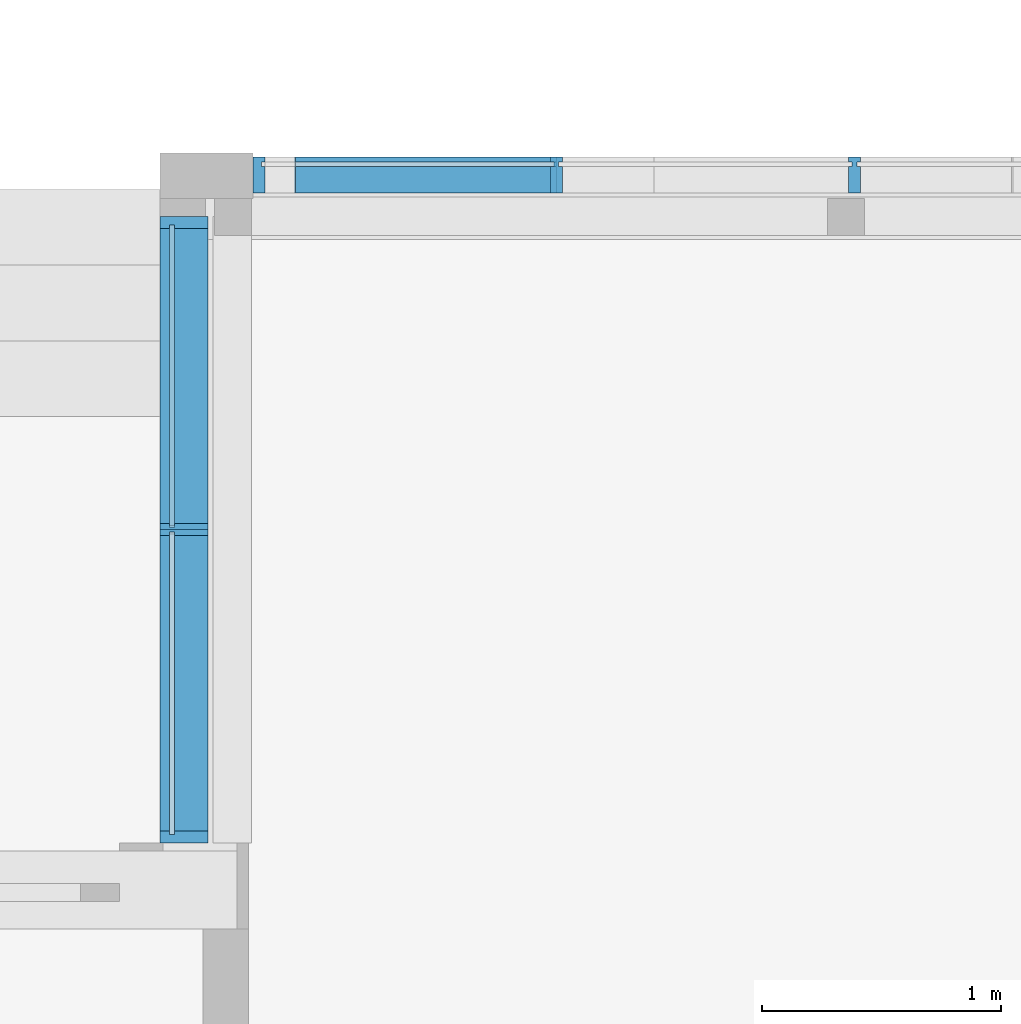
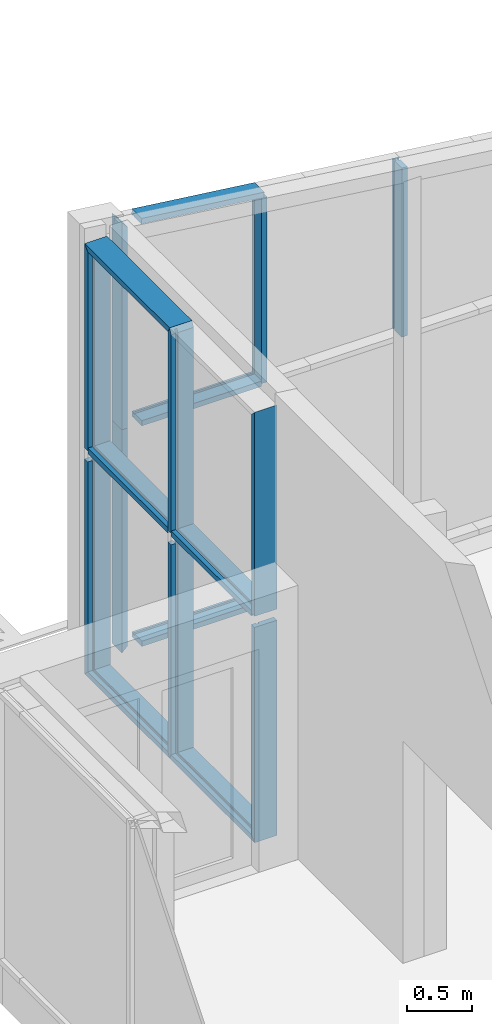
# One storey, part 44 of 301: 18 members, 2 elements without a shape of their own.
"""IFC2X3 building model written with IfcOpenShell, lengths in millimetres."""

import ifcopenshell
import ifcopenshell.guid

model = None  # the IFC model being written
_history = None  # IfcOwnerHistory: only IFC2X3 demands one
_inside = {}  # id of a spatial element -> (the spatial element, [elements in it])
_under = {}  # id of a project, library or spatial element -> (it, [spatial elements below it])
_declared = {}  # id of a project -> (the project, [libraries it declares])
_typed = {}  # id of a type object -> (the type object, [elements of that type])
_made_of = {}  # id of a material, layer set ... -> (it, [elements and type objects made of it])


def new_model(schema):
    """Start an empty IFC model of exactly this schema.

    Asked for "IFC4X3", IfcOpenShell would pick the latest addendum, in which some entities
    have other attributes; the version numbers below select the first issue.
    IFC2X3 requires an IfcOwnerHistory on every rooted entity: one is made here for all.
    """
    global model, _history
    if schema == "IFC4X3":
        model = ifcopenshell.file(schema_version=(4, 3, 0, 0))
    else:
        model = ifcopenshell.file(schema=schema)
    _inside.clear()
    _under.clear()
    _declared.clear()
    _typed.clear()
    _made_of.clear()
    _history = None
    if model.schema == "IFC2X3":
        org = make("IfcOrganization", Name="unknown")
        user = make(
            "IfcPersonAndOrganization",
            ThePerson=make("IfcPerson", FamilyName="unknown"),
            TheOrganization=org,
        )
        app = make(
            "IfcApplication",
            ApplicationDeveloper=org,
            Version="unknown",
            ApplicationFullName="unknown",
            ApplicationIdentifier="unknown",
        )
        _history = make(
            "IfcOwnerHistory",
            OwningUser=user,
            OwningApplication=app,
            ChangeAction="ADDED",
            CreationDate=0,
        )
    return model


def make(cls, **values):
    """One entity of the class cls with the attributes given. An attribute that is None is left unset."""
    return model.create_entity(
        cls, **{name: value for name, value in values.items() if value is not None}
    )


def entity(cls, *values):
    """Any entity or typed value of the class cls, its attributes in the order of the schema. None: left unset."""
    e = model.create_entity(cls)
    for i, value in enumerate(values):
        if value is not None:
            e[i] = value
    return e


def rooted(cls, **values):
    """An entity with a GlobalId (a new one), such as an element, a storey or a relation."""
    return make(cls, GlobalId=ifcopenshell.guid.new(), OwnerHistory=_history, **values)


def si_unit(unit_type, name, prefix=None):
    """IfcSIUnit, for example si_unit("LENGTHUNIT", "METRE", prefix="MILLI")."""
    return make("IfcSIUnit", UnitType=unit_type, Prefix=prefix, Name=name)


def converted_unit(unit_type, name, factor, base, dimensions=None, offset=None):
    """IfcConversionBasedUnit, such as the inch: factor (a typed value) times the base unit."""
    return make(
        "IfcConversionBasedUnit"
        if offset is None
        else "IfcConversionBasedUnitWithOffset",
        ConversionOffset=offset,
        Dimensions=None
        if dimensions is None
        else entity("IfcDimensionalExponents", *dimensions),
        UnitType=unit_type,
        Name=name,
        ConversionFactor=make(
            "IfcMeasureWithUnit", ValueComponent=factor, UnitComponent=base
        ),
    )


def derived_unit(unit_type, elements):
    """IfcDerivedUnit: a product of units, each with its exponent."""
    return make(
        "IfcDerivedUnit",
        Elements=[
            make("IfcDerivedUnitElement", Unit=unit, Exponent=power)
            for unit, power in elements
        ],
        UnitType=unit_type,
    )


def money_unit(currency):
    """IfcMonetaryUnit."""
    return make("IfcMonetaryUnit", Currency=currency)


def assignment(units):
    """IfcUnitAssignment: the units of a project."""
    return None if units is None else make("IfcUnitAssignment", Units=units)


def point(xyz):
    """IfcCartesianPoint."""
    return None if xyz is None else make("IfcCartesianPoint", Coordinates=xyz)


def direction(xyz):
    """IfcDirection."""
    return None if xyz is None else make("IfcDirection", DirectionRatios=xyz)


def frame(location, z_axis=None, x_axis=None):
    """IfcAxis2Placement3D, a coordinate frame: its origin and axes. An axis left out is left unset."""
    return make(
        "IfcAxis2Placement3D",
        Location=point(location),
        Axis=direction(z_axis),
        RefDirection=direction(x_axis),
    )


def origin_with_axes():
    """The frame at (0, 0, 0) with the z axis (0, 0, 1) and the x axis (1, 0, 0) written out."""
    return frame((0.0, 0.0, 0.0), z_axis=(0.0, 0.0, 1.0), x_axis=(1.0, 0.0, 0.0))


def place(relative_to, where):
    """IfcLocalPlacement: puts the frame where relative to a parent placement (None: the world)."""
    return make(
        "IfcLocalPlacement", PlacementRelTo=relative_to, RelativePlacement=where
    )


def context(
    kind, dimensions, precision=None, world=None, true_north=None, identifier=None
):
    """IfcGeometricRepresentationContext, for example the 3D "Model" context."""
    return make(
        "IfcGeometricRepresentationContext",
        ContextIdentifier=identifier,
        ContextType=kind,
        CoordinateSpaceDimension=dimensions,
        Precision=precision,
        WorldCoordinateSystem=world,
        TrueNorth=true_north,
    )


def subcontext(parent, identifier, kind, view, scale=None):
    """IfcGeometricRepresentationSubContext, for example "Body" below "Model"."""
    return make(
        "IfcGeometricRepresentationSubContext",
        ContextIdentifier=identifier,
        ContextType=kind,
        ParentContext=parent,
        TargetScale=scale,
        TargetView=view,
    )


def project(units=None, contexts=None):
    """IfcProject with its units and contexts."""
    return rooted(
        "IfcProject",
        Name="project",
        RepresentationContexts=contexts,
        UnitsInContext=assignment(units),
    )


def spatial(cls, under=None, at=None, **own):
    """A site, building, storey or space (cls), placed at a placement, below another one or the project."""
    s = rooted(cls, ObjectPlacement=at, **own)
    if under is not None:
        _under.setdefault(under.id(), (under, []))[1].append(s)
    return s


def faces_of(points, faces, orient=None, outer=None):
    """IfcFace entities. A face is a list of loops; a loop is a list of indices into points, from 0.

    orient and outer hold one flag for each loop. By default every Orientation is true, the
    first loop of a face is its IfcFaceOuterBound and the others are IfcFaceBound.
    """
    made = []
    for i, loops in enumerate(faces):
        bounds = []
        for j, loop in enumerate(loops):
            is_outer = j == 0 if outer is None else outer[i][j]
            bounds.append(
                make(
                    "IfcFaceOuterBound" if is_outer else "IfcFaceBound",
                    Bound=make("IfcPolyLoop", Polygon=[points[k] for k in loop]),
                    Orientation=True if orient is None else orient[i][j],
                )
            )
        made.append(make("IfcFace", Bounds=bounds))
    return made


def faceted_brep(points, faces, orient=None, outer=None, voids=None):
    """IfcFacetedBrep: a solid bounded by flat faces; with voids (closed shells), ...WithVoids."""
    shared = [point(p) for p in points]
    hull = make("IfcClosedShell", CfsFaces=faces_of(shared, faces, orient, outer))
    if voids is None:
        return make("IfcFacetedBrep", Outer=hull)
    return make(
        "IfcFacetedBrepWithVoids",
        Outer=hull,
        Voids=[
            make(cls, CfsFaces=faces_of(shared, fs, o, b)) for cls, fs, o, b in voids
        ],
    )


def shape(context_of_items, identifier, shape_type, items):
    """IfcShapeRepresentation: the items that make up one representation, for example the "Body"."""
    return make(
        "IfcShapeRepresentation",
        ContextOfItems=context_of_items,
        RepresentationIdentifier=identifier,
        RepresentationType=shape_type,
        Items=items,
    )


def material(Name=None, Category=None):
    """IfcMaterial."""
    return make("IfcMaterial", Name=Name, Category=Category)


def made_of(thing, what):
    """Note that an element or type object is made of a material, layer set ...; save() writes the relation."""
    if what is not None:
        _made_of.setdefault(what.id(), (what, []))[1].append(thing)
    return thing


def type_object(cls, material=None, **own):
    """A type object (cls), such as IfcWallType, which elements share."""
    return made_of(rooted(cls, **own), material)


def element(
    cls,
    number,
    at=None,
    inside=None,
    cuts=None,
    type_object=None,
    material=None,
    context=None,
    identifier="Body",
    shape_type=None,
    held_by="IfcProductDefinitionShape",
    body=None,
    shapes=None,
    **own,
):
    """One element of the class cls, such as IfcWall. Its Tag is "e" and its number.

    at: its placement. inside: the storey or other place that contains it. cuts: it is an
    opening in that element (IfcRelVoidsElement). A single representation is given by context,
    identifier, shape_type and body (its items); several are given by shapes. held_by: the class
    of the entity that holds the representations. save() writes the other relations.
    """
    e = rooted(cls, Tag="e%d" % number, ObjectPlacement=at, **own)
    if body is not None:
        shapes = [shape(context, identifier, shape_type, body)]
    if shapes is not None:
        e.Representation = make(held_by, Representations=shapes)
    if inside is not None:
        _inside.setdefault(inside.id(), (inside, []))[1].append(e)
    if cuts is not None:
        rooted(
            "IfcRelVoidsElement", RelatingBuildingElement=cuts, RelatedOpeningElement=e
        )
    if type_object is not None:
        _typed.setdefault(type_object.id(), (type_object, []))[1].append(e)
    return made_of(e, material)


def aggregate(whole, parts):
    """IfcRelAggregates: a whole, such as a stair, and the parts it consists of."""
    return rooted("IfcRelAggregates", RelatingObject=whole, RelatedObjects=parts)


def save(model, path):
    """Write the relations noted so far, then the file.

    IfcRelAggregates (storeys below a building ...), IfcRelContainedInSpatialStructure (elements
    in a storey), IfcRelDefinesByType, IfcRelAssociatesMaterial and IfcRelDeclares: one each for
    every whole, place, type object, material and project.
    """
    for whole, parts in _under.values():
        aggregate(whole, parts)
    for where, things in _inside.values():
        rooted(
            "IfcRelContainedInSpatialStructure",
            RelatedElements=things,
            RelatingStructure=where,
        )
    for kind, things in _typed.values():
        rooted("IfcRelDefinesByType", RelatedObjects=things, RelatingType=kind)
    for what, things in _made_of.values():
        rooted("IfcRelAssociatesMaterial", RelatedObjects=things, RelatingMaterial=what)
    for by, libraries in _declared.values():
        rooted("IfcRelDeclares", RelatingContext=by, RelatedDefinitions=libraries)
    model.write(path)


model = new_model("IFC2X3")

# Units and contexts
model_context = context("Model", 3, precision=0.01, world=origin_with_axes(), true_north=direction((0.0, 1.0)))
body_context = subcontext(model_context, "Body", "Model", "MODEL_VIEW")
ifc_project = project(units=[si_unit("LENGTHUNIT", "METRE", prefix="MILLI"), si_unit("AREAUNIT", "SQUARE_METRE"), si_unit("VOLUMEUNIT", "CUBIC_METRE"), converted_unit("PLANEANGLEUNIT", "DEGREE", entity("IfcPlaneAngleMeasure", 0.0174532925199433), si_unit("PLANEANGLEUNIT", "RADIAN"), dimensions=[0, 0, 0, 0, 0, 0, 0]), money_unit("EUR"), converted_unit("TIMEUNIT", "Year", entity("IfcTimeMeasure", 31557600.0), si_unit("TIMEUNIT", "SECOND"), dimensions=[0, 0, 1, 0, 0, 0, 0]), si_unit("MASSUNIT", "GRAM", prefix="KILO"), si_unit("THERMODYNAMICTEMPERATUREUNIT", "DEGREE_CELSIUS"), si_unit("LUMINOUSINTENSITYUNIT", "LUMEN"), si_unit("ENERGYUNIT", "JOULE", prefix="MEGA"), derived_unit("THERMALCONDUCTANCEUNIT", [(si_unit("POWERUNIT", "WATT"), 1), (si_unit("LENGTHUNIT", "METRE"), -1), (si_unit("THERMODYNAMICTEMPERATUREUNIT", "KELVIN"), -1)]), derived_unit("SPECIFICHEATCAPACITYUNIT", [(si_unit("ENERGYUNIT", "JOULE"), 1), (si_unit("MASSUNIT", "GRAM", prefix="KILO"), -1), (si_unit("THERMODYNAMICTEMPERATUREUNIT", "KELVIN"), -1)]), derived_unit("MASSDENSITYUNIT", [(si_unit("MASSUNIT", "GRAM", prefix="KILO"), 1), (si_unit("VOLUMEUNIT", "CUBIC_METRE"), -1)])], contexts=[model_context])

# Site, building, storey
site_placement = place(None, frame((0.0, 0.0, 8650.0), z_axis=(0.0, 0.0, 1.0), x_axis=(1.0, 0.0, 0.0)))
site = spatial("IfcSite", under=ifc_project, at=site_placement, Name="43301:001:0844", CompositionType="ELEMENT")
building_placement = place(site_placement, origin_with_axes())
building = spatial("IfcBuilding", under=site, at=building_placement, Name="Kuressaare Ametikooli tuulikute mehaanikute õppekorpus", CompositionType="ELEMENT")
storey_placement = place(building_placement, origin_with_axes())
storey = spatial("IfcBuildingStorey", under=building, at=storey_placement, Name="1.korrus", CompositionType="ELEMENT", Elevation=0.0)

# Curtain wall, members
curtain_wall_type = type_object("IfcCurtainWallType", Name="Curtain Wall Type", PredefinedType="NOTDEFINED")
curtain_wall_1_placement = place(storey_placement, frame((120847.1885681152, 42644.61724537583, 0.0), z_axis=(0.0, 0.0, 1.0), x_axis=(1.0, 0.0, 0.0)))
curtain_wall_1 = element("IfcCurtainWall", 1, at=curtain_wall_1_placement, inside=storey, type_object=curtain_wall_type)
ifc_material = material(Name="Metall - Alumiinium")
member_type_1 = type_object("IfcMemberType", Name="Boundary Frame 50 x 200", PredefinedType="NOTDEFINED")
member_1_placement = place(curtain_wall_1_placement, frame((0.0, 655.0000000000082, 0.0), z_axis=(0.0, -1.0, 0.0), x_axis=(0.0, 0.0, 1.0)))
member_1 = element("IfcMember", 2, at=member_1_placement, type_object=member_type_1, material=ifc_material, context=body_context, shape_type="Brep", body=[
    faceted_brep([(35.00000000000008, -10.00000000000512, 1292.500000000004), (35.00000000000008, 10.00000000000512, 1292.500000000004), (50.00000000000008, 10.00000000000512, 1285.000000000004), (50.00000000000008, 49.99999999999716, 1285.000000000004), (0.0, 49.99999999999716, 1310.000000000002), (0.0, 0.0, 1310.000000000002), (0.0, -150.0000000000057, 1310.000000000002), (50.00000000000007, -150.0000000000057, 1285.000000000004), (50.00000000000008, -10.00000000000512, 1285.000000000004), (35.0, -10.00000000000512, 34.99999999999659), (35.0, 10.00000000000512, 34.99999999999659), (50.0, 10.00000000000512, 49.99999999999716), (50.0, 49.99999999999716, 49.99999999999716), (0.0, 49.99999999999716, 0.0), (0.0, 0.0, 0.0), (0.0, -150.0000000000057, 0.0), (49.99999999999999, -150.0000000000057, 49.99999999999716), (50.0, -10.00000000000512, 49.99999999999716)], [[[0, 1, 2, 3, 4, 5, 6, 7, 8]], [[1, 0, 9, 10]], [[11, 2, 1, 10]], [[2, 11, 12, 3]], [[4, 3, 12, 13]], [[5, 4, 13, 14]], [[6, 5, 14, 15]], [[7, 6, 15, 16]], [[17, 8, 7, 16]], [[0, 8, 17, 9]], [[9, 17, 16, 15, 14, 13, 12, 11, 10]]]),
])
member_2_placement = place(curtain_wall_1_placement, frame((0.0, 655.0000000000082, 2130.00004293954), z_axis=(0.0, 0.0, 1.0), x_axis=(0.0, 1.0, 0.0)))
member_2 = element("IfcMember", 3, at=member_2_placement, type_object=member_type_1, material=ifc_material, context=body_context, shape_type="Brep", body=[
    faceted_brep([(-34.99999999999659, -10.00000000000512, 1884.999996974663), (-49.99999999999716, -10.00000000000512, 1869.999996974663), (-49.99999999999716, -150.0000000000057, 1869.999996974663), (0.0, -150.0000000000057, 1919.999996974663), (0.0, 0.0, 1919.999996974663), (0.0, 49.99999999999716, 1919.999996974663), (-49.99999999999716, 49.99999999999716, 1869.999996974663), (-49.99999999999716, 10.00000000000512, 1869.999996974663), (-34.99999999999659, 10.00000000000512, 1884.999996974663), (-34.99999999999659, -10.00000000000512, 0.0), (-49.99999999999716, -10.00000000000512, 0.0), (-49.99999999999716, -150.0000000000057, 0.0), (0.0, -150.0000000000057, 0.0), (0.0, 0.0, 0.0), (0.0, 49.99999999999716, 0.0), (-49.99999999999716, 49.99999999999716, 0.0), (-49.99999999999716, 10.00000000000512, 0.0), (-34.99999999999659, 10.00000000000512, 0.0)], [[[0, 1, 2, 3, 4, 5, 6, 7, 8]], [[0, 9, 10, 1]], [[10, 11, 2, 1]], [[11, 12, 3, 2]], [[12, 13, 4, 3]], [[13, 14, 5, 4]], [[14, 15, 6, 5]], [[7, 6, 15, 16]], [[16, 17, 8, 7]], [[8, 17, 9, 0]], [[9, 17, 16, 15, 14, 13, 12, 11, 10]]]),
])
member_3_placement = place(curtain_wall_1_placement, frame((0.0, 655.0000000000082, 0.0), z_axis=(0.0, 0.0, 1.0), x_axis=(0.0, 1.0, 0.0)))
member_3 = element("IfcMember", 4, at=member_3_placement, type_object=member_type_1, material=ifc_material, context=body_context, shape_type="Brep", body=[
    faceted_brep([(-34.99999999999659, -10.00000000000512, 2025.000039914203), (-49.99999999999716, -10.00000000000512, 2025.000039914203), (-49.99999999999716, -150.0000000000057, 2025.000039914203), (0.0, -150.0000000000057, 2025.000039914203), (0.0, 0.0, 2025.000039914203), (0.0, 49.99999999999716, 2025.000039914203), (-49.99999999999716, 49.99999999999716, 2025.000039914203), (-49.99999999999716, 10.00000000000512, 2025.000039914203), (-34.99999999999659, 10.00000000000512, 2025.000039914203), (-34.99999999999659, -10.00000000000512, 35.00000000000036), (-49.99999999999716, -10.00000000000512, 49.99999999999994), (-49.99999999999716, -150.0000000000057, 50.00000000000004), (0.0, -150.0000000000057, 0.0), (0.0, 0.0, 0.0), (0.0, 49.99999999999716, 0.0), (-49.99999999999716, 49.99999999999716, 49.99999999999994), (-49.99999999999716, 10.00000000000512, 49.99999999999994), (-34.99999999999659, 10.00000000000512, 35.00000000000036)], [[[0, 1, 2, 3, 4, 5, 6, 7, 8]], [[0, 9, 10, 1]], [[10, 11, 2, 1]], [[2, 11, 12, 3]], [[3, 12, 13, 4]], [[4, 13, 14, 5]], [[5, 14, 15, 6]], [[7, 6, 15, 16]], [[16, 17, 8, 7]], [[8, 17, 9, 0]], [[9, 17, 16, 15, 14, 13, 12, 11, 10]]]),
])
member_4_placement = place(curtain_wall_1_placement, frame((0.0, 655.0000000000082, 4050.000039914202), z_axis=(0.0, -1.0, 0.0), x_axis=(0.0, 0.0, 1.0)))
member_4 = element("IfcMember", 5, at=member_4_placement, type_object=member_type_1, material=ifc_material, context=body_context, shape_type="Brep", body=[
    faceted_brep([(-35.00000000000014, -10.00000000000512, 1292.500000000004), (-49.99999999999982, -10.00000000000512, 1285.000000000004), (-49.99999999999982, -150.0000000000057, 1285.000000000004), (0.0, -150.0000000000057, 1310.000000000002), (0.0, 0.0, 1310.000000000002), (0.0, 49.99999999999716, 1310.000000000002), (-49.99999999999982, 49.99999999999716, 1285.000000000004), (-49.99999999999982, 10.00000000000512, 1285.000000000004), (-35.00000000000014, 10.00000000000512, 1292.500000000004), (-35.00000000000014, -10.00000000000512, 34.99999999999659), (-49.99999999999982, -10.00000000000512, 49.99999999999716), (-49.99999999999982, -150.0000000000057, 49.99999999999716), (0.0, -150.0000000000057, 0.0), (0.0, 0.0, 0.0), (0.0, 49.99999999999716, 0.0), (-49.99999999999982, 49.99999999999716, 49.99999999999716), (-49.99999999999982, 10.00000000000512, 49.99999999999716), (-35.00000000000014, 10.00000000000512, 34.99999999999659)], [[[0, 1, 2, 3, 4, 5, 6, 7, 8]], [[0, 9, 10, 1]], [[10, 11, 2, 1]], [[2, 11, 12, 3]], [[3, 12, 13, 4]], [[4, 13, 14, 5]], [[5, 14, 15, 6]], [[7, 6, 15, 16]], [[16, 17, 8, 7]], [[8, 17, 9, 0]], [[9, 17, 16, 15, 14, 13, 12, 11, 10]]]),
])
member_5_placement = place(curtain_wall_1_placement, frame((0.0, -1964.95053232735, 2130.00004293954), z_axis=(0.0, 0.0, 1.0), x_axis=(0.0, 1.0, 0.0)))
member_5 = element("IfcMember", 6, at=member_5_placement, type_object=member_type_1, material=ifc_material, context=body_context, shape_type="Brep", body=[
    faceted_brep([(34.99999999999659, -10.00000000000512, 1884.999996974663), (34.99999999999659, 10.00000000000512, 1884.999996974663), (49.99999999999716, 10.00000000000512, 1869.999996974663), (49.99999999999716, 49.99999999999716, 1869.999996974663), (0.0, 49.99999999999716, 1919.999996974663), (0.0, 0.0, 1919.999996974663), (0.0, -150.0000000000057, 1919.999996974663), (49.99999999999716, -150.0000000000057, 1869.999996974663), (49.99999999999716, -10.00000000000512, 1869.999996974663), (34.99999999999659, -10.00000000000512, 0.0), (34.99999999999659, 10.00000000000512, 0.0), (49.99999999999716, 10.00000000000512, 0.0), (49.99999999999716, 49.99999999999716, 0.0), (0.0, 49.99999999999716, 0.0), (0.0, 0.0, 0.0), (0.0, -150.0000000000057, 0.0), (49.99999999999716, -150.0000000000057, 0.0), (49.99999999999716, -10.00000000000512, 0.0)], [[[0, 1, 2, 3, 4, 5, 6, 7, 8]], [[1, 0, 9, 10]], [[11, 2, 1, 10]], [[2, 11, 12, 3]], [[13, 4, 3, 12]], [[14, 5, 4, 13]], [[15, 6, 5, 14]], [[16, 7, 6, 15]], [[17, 8, 7, 16]], [[0, 8, 17, 9]], [[9, 17, 16, 15, 14, 13, 12, 11, 10]]]),
])
member_6_placement = place(curtain_wall_1_placement, frame((0.0, -654.9999999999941, 0.0), z_axis=(0.0, -1.0, 0.0), x_axis=(0.0, 0.0, 1.0)))
member_6 = element("IfcMember", 7, at=member_6_placement, type_object=member_type_1, material=ifc_material, context=body_context, shape_type="Brep", body=[
    faceted_brep([(35.00000000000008, -10.00000000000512, 1274.950532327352), (35.00000000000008, 10.00000000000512, 1274.950532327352), (50.00000000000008, 10.00000000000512, 1259.950532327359), (50.00000000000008, 49.99999999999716, 1259.950532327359), (0.0, 49.99999999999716, 1309.950532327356), (0.0, 0.0, 1309.950532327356), (0.0, -150.0000000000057, 1309.950532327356), (50.00000000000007, -150.0000000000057, 1259.950532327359), (50.00000000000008, -10.00000000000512, 1259.950532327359), (35.0, -10.00000000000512, 17.49999999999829), (35.0, 10.00000000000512, 17.49999999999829), (50.0, 10.00000000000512, 24.99999999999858), (50.0, 49.99999999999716, 24.99999999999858), (0.0, 49.99999999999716, 0.0), (0.0, 0.0, 0.0), (0.0, -150.0000000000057, 0.0), (49.99999999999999, -150.0000000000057, 24.99999999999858), (50.0, -10.00000000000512, 24.99999999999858)], [[[0, 1, 2, 3, 4, 5, 6, 7, 8]], [[1, 0, 9, 10]], [[11, 2, 1, 10]], [[2, 11, 12, 3]], [[4, 3, 12, 13]], [[5, 4, 13, 14]], [[6, 5, 14, 15]], [[7, 6, 15, 16]], [[17, 8, 7, 16]], [[0, 8, 17, 9]], [[9, 17, 16, 15, 14, 13, 12, 11, 10]]]),
])
member_7_placement = place(curtain_wall_1_placement, frame((0.0, -1964.95053232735, 0.0), z_axis=(0.0, 0.0, 1.0), x_axis=(0.0, 1.0, 0.0)))
member_7 = element("IfcMember", 8, at=member_7_placement, type_object=member_type_1, material=ifc_material, context=body_context, shape_type="Brep", body=[
    faceted_brep([(34.99999999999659, -10.00000000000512, 2025.000039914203), (34.99999999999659, 10.00000000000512, 2025.000039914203), (49.99999999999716, 10.00000000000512, 2025.000039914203), (49.99999999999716, 49.99999999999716, 2025.000039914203), (0.0, 49.99999999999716, 2025.000039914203), (0.0, 0.0, 2025.000039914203), (0.0, -150.0000000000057, 2025.000039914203), (49.99999999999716, -150.0000000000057, 2025.000039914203), (49.99999999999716, -10.00000000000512, 2025.000039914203), (34.99999999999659, -10.00000000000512, 35.00000000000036), (34.99999999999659, 10.00000000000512, 35.00000000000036), (49.99999999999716, 10.00000000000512, 49.99999999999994), (49.99999999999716, 49.99999999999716, 49.99999999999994), (0.0, 49.99999999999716, 0.0), (0.0, 0.0, 0.0), (0.0, -150.0000000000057, 0.0), (49.99999999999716, -150.0000000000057, 50.00000000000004), (49.99999999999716, -10.00000000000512, 49.99999999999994)], [[[0, 1, 2, 3, 4, 5, 6, 7, 8]], [[1, 0, 9, 10]], [[11, 2, 1, 10]], [[2, 11, 12, 3]], [[4, 3, 12, 13]], [[5, 4, 13, 14]], [[6, 5, 14, 15]], [[7, 6, 15, 16]], [[17, 8, 7, 16]], [[0, 8, 17, 9]], [[9, 17, 16, 15, 14, 13, 12, 11, 10]]]),
])
member_8_placement = place(curtain_wall_1_placement, frame((0.0, -654.9999999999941, 0.0), z_axis=(0.0, 0.0, 1.0), x_axis=(0.0, 1.0, 0.0)))
member_8 = element("IfcMember", 9, at=member_8_placement, type_object=member_type_1, material=ifc_material, context=body_context, shape_type="Brep", body=[
    faceted_brep([(-9.99999999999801, -10.00000000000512, 2025.000039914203), (-24.99999999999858, -10.00000000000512, 2025.000039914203), (-24.99999999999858, -150.0000000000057, 2025.000039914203), (24.99999999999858, -150.0000000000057, 2025.000039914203), (24.99999999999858, -10.00000000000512, 2025.000039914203), (9.99999999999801, -10.00000000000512, 2025.000039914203), (9.99999999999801, 10.00000000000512, 2025.000039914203), (24.99999999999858, 10.00000000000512, 2025.000039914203), (24.99999999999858, 49.99999999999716, 2025.000039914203), (-24.99999999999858, 49.99999999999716, 2025.000039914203), (-24.99999999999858, 10.00000000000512, 2025.000039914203), (-9.99999999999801, 10.00000000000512, 2025.000039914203), (-9.99999999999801, -10.00000000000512, 20.00000000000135), (-24.99999999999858, -10.00000000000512, 50.00000000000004), (-24.99999999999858, -150.0000000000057, 50.00000000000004), (0.0, -150.0000000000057, 0.0), (24.99999999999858, -150.0000000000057, 50.00000000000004), (24.99999999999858, -10.00000000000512, 50.00000000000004), (9.99999999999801, -10.00000000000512, 20.00000000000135), (9.99999999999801, 10.00000000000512, 20.00000000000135), (24.99999999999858, 10.00000000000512, 50.00000000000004), (24.99999999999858, 49.99999999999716, 50.00000000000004), (0.0, 49.99999999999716, 0.0), (-24.99999999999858, 49.99999999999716, 50.00000000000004), (-24.99999999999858, 10.00000000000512, 50.00000000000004), (-9.99999999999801, 10.00000000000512, 20.00000000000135)], [[[0, 1, 2, 3, 4, 5, 6, 7, 8, 9, 10, 11]], [[1, 0, 12, 13]], [[1, 13, 14, 2]], [[14, 15, 16, 3, 2]], [[4, 3, 16, 17]], [[4, 17, 18, 5]], [[5, 18, 19, 6]], [[7, 6, 19, 20]], [[20, 21, 8, 7]], [[21, 22, 23, 9, 8]], [[24, 10, 9, 23]], [[11, 10, 24, 25]], [[0, 11, 25, 12]], [[25, 24, 23, 22, 15, 14, 13, 12]], [[21, 20, 19, 18, 17, 16, 15, 22]]]),
])
member_9_placement = place(curtain_wall_1_placement, frame((0.0, -654.9999999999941, 2130.00004293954), z_axis=(0.0, 0.0, 1.0), x_axis=(0.0, 1.0, 0.0)))
member_9 = element("IfcMember", 10, at=member_9_placement, type_object=member_type_1, material=ifc_material, context=body_context, shape_type="Brep", body=[
    faceted_brep([(-9.99999999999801, -10.00000000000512, 1899.999996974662), (-24.99999999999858, -10.00000000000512, 1869.999996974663), (-24.99999999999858, -150.0000000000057, 1869.999996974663), (0.0, -150.0000000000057, 1919.999996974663), (0.0, 49.99999999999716, 1919.999996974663), (-24.99999999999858, 49.99999999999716, 1869.999996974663), (-24.99999999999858, 10.00000000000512, 1869.999996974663), (-9.99999999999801, 10.00000000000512, 1899.999996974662), (-9.99999999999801, -10.00000000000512, 0.0), (-24.99999999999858, -10.00000000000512, 0.0), (-24.99999999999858, -150.0000000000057, 0.0), (24.99999999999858, -150.0000000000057, 1869.999996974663), (24.99999999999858, -150.0000000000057, 0.0), (24.99999999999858, -10.00000000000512, 1869.999996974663), (9.99999999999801, -10.00000000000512, 1899.999996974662), (9.99999999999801, 10.00000000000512, 1899.999996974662), (24.99999999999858, 10.00000000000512, 1869.999996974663), (24.99999999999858, 49.99999999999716, 1869.999996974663), (-24.99999999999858, 49.99999999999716, 0.0), (24.99999999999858, 49.99999999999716, 0.0), (-24.99999999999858, 10.00000000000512, 0.0), (-9.99999999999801, 10.00000000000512, 0.0), (24.99999999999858, 10.00000000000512, 0.0), (9.99999999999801, 10.00000000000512, 0.0), (9.99999999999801, -10.00000000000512, 0.0), (24.99999999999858, -10.00000000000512, 0.0)], [[[0, 1, 2, 3, 4, 5, 6, 7]], [[1, 0, 8, 9]], [[1, 9, 10, 2]], [[11, 3, 2, 10, 12]], [[3, 11, 13, 14, 15, 16, 17, 4]], [[18, 5, 4, 17, 19]], [[20, 6, 5, 18]], [[7, 6, 20, 21]], [[0, 7, 21, 8]], [[21, 20, 18, 19, 22, 23, 24, 25, 12, 10, 9, 8]], [[13, 11, 12, 25]], [[13, 25, 24, 14]], [[14, 24, 23, 15]], [[16, 15, 23, 22]], [[22, 19, 17, 16]]]),
])
member_type_2 = type_object("IfcMemberType", Name="Transom Frame 50 x 200", PredefinedType="NOTDEFINED")
member_10_placement = place(curtain_wall_1_placement, frame((0.0, 655.0000000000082, 2130.00004293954), z_axis=(0.0, -1.0, 0.0), x_axis=(0.0, 0.0, 1.0)))
member_10 = element("IfcMember", 11, at=member_10_placement, type_object=member_type_2, material=ifc_material, context=body_context, shape_type="Brep", body=[
    faceted_brep([(-9.999999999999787, -10.00000000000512, 1285.000000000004), (-24.99999999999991, -10.00000000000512, 1285.000000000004), (-24.99999999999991, -150.0000000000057, 1285.000000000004), (24.99999999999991, -150.0000000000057, 1285.000000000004), (24.99999999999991, -10.00000000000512, 1285.000000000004), (10.00000000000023, -10.00000000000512, 1285.000000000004), (10.00000000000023, 10.00000000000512, 1285.000000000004), (24.99999999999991, 10.00000000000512, 1285.000000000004), (24.99999999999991, 49.99999999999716, 1285.000000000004), (-24.99999999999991, 49.99999999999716, 1285.000000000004), (-24.99999999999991, 10.00000000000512, 1285.000000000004), (-9.999999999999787, 10.00000000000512, 1285.000000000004), (-9.999999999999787, -10.00000000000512, 49.99999999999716), (-24.99999999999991, -10.00000000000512, 49.99999999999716), (-24.99999999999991, -150.0000000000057, 49.99999999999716), (24.99999999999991, -150.0000000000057, 49.99999999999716), (24.99999999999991, -10.00000000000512, 49.99999999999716), (9.999999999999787, -10.00000000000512, 49.99999999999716), (9.999999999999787, 10.00000000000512, 49.99999999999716), (24.99999999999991, 10.00000000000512, 49.99999999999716), (24.99999999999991, 49.99999999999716, 49.99999999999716), (-24.99999999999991, 49.99999999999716, 49.99999999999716), (-24.99999999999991, 10.00000000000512, 49.99999999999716), (-9.999999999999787, 10.00000000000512, 49.99999999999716)], [[[0, 1, 2, 3, 4, 5, 6, 7, 8, 9, 10, 11]], [[1, 0, 12, 13]], [[1, 13, 14, 2]], [[2, 14, 15, 3]], [[4, 3, 15, 16]], [[4, 16, 17, 5]], [[5, 17, 18, 6]], [[7, 6, 18, 19]], [[19, 20, 8, 7]], [[8, 20, 21, 9]], [[22, 10, 9, 21]], [[11, 10, 22, 23]], [[0, 11, 23, 12]], [[23, 22, 21, 20, 19, 18, 17, 16, 15, 14, 13, 12]]]),
])
member_11_placement = place(curtain_wall_1_placement, frame((0.0, -654.9999999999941, 2130.00004293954), z_axis=(0.0, -1.0, 0.0), x_axis=(0.0, 0.0, 1.0)))
member_11 = element("IfcMember", 12, at=member_11_placement, type_object=member_type_2, material=ifc_material, context=body_context, shape_type="Brep", body=[
    faceted_brep([(-9.999999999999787, -10.00000000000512, 1259.950532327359), (-24.99999999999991, -10.00000000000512, 1259.950532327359), (-24.99999999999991, -150.0000000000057, 1259.950532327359), (24.99999999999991, -150.0000000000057, 1259.950532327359), (24.99999999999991, -10.00000000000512, 1259.950532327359), (10.00000000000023, -10.00000000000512, 1259.950532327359), (10.00000000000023, 10.00000000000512, 1259.950532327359), (24.99999999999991, 10.00000000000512, 1259.950532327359), (24.99999999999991, 49.99999999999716, 1259.950532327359), (-24.99999999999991, 49.99999999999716, 1259.950532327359), (-24.99999999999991, 10.00000000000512, 1259.950532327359), (-9.999999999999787, 10.00000000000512, 1259.950532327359), (-9.999999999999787, -10.00000000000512, 24.99999999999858), (-24.99999999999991, -10.00000000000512, 24.99999999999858), (-24.99999999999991, -150.0000000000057, 24.99999999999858), (24.99999999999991, -150.0000000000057, 24.99999999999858), (24.99999999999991, -10.00000000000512, 24.99999999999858), (9.999999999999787, -10.00000000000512, 24.99999999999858), (9.999999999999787, 10.00000000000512, 24.99999999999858), (24.99999999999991, 10.00000000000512, 24.99999999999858), (24.99999999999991, 49.99999999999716, 24.99999999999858), (-24.99999999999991, 49.99999999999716, 24.99999999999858), (-24.99999999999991, 10.00000000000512, 24.99999999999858), (-9.999999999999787, 10.00000000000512, 24.99999999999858)], [[[0, 1, 2, 3, 4, 5, 6, 7, 8, 9, 10, 11]], [[1, 0, 12, 13]], [[1, 13, 14, 2]], [[2, 14, 15, 3]], [[4, 3, 15, 16]], [[4, 16, 17, 5]], [[5, 17, 18, 6]], [[7, 6, 18, 19]], [[19, 20, 8, 7]], [[8, 20, 21, 9]], [[22, 10, 9, 21]], [[11, 10, 22, 23]], [[0, 11, 23, 12]], [[23, 22, 21, 20, 19, 18, 17, 16, 15, 14, 13, 12]]]),
])
aggregate(curtain_wall_1, [member_1, member_2, member_3, member_4, member_10, member_5, member_6, member_7, member_8, member_9, member_11])

curtain_wall_2_placement = place(storey_placement, frame((123006.726034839, 43517.8284534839, -3.991420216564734e-05), z_axis=(0.0, 0.0, 1.0), x_axis=(1.0, 0.0, 0.0)))
curtain_wall_2 = element("IfcCurtainWall", 13, at=curtain_wall_2_placement, inside=storey, type_object=curtain_wall_type, Name="KF-XX")
member_type_3 = type_object("IfcMemberType", Name="Boundary Frame 50 x 150", PredefinedType="NOTDEFINED")
member_12_placement = place(curtain_wall_2_placement, frame((-1820.473714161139, 0.0, 0.0), z_axis=(0.0, 0.0, 1.0), x_axis=(1.0, 0.0, 0.0)))
member_12 = element("IfcMember", 14, at=member_12_placement, type_object=member_type_3, material=ifc_material, context=body_context, shape_type="Brep", body=[
    faceted_brep([(35.0, -10.0, 2100.000039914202), (35.0, 10.0, 2100.000039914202), (50.0, 10.0, 2100.000039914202), (50.0, 30.0, 2100.000039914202), (0.0, 30.0, 2100.000039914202), (0.0, 0.0, 2100.000039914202), (0.0, -120.0, 2100.000039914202), (50.0, -120.0, 2100.000039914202), (50.0, -10.00000000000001, 2100.000039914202), (35.0, -10.0, 35.00000000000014), (35.0, 10.0, 35.00000000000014), (50.0, 10.0, 50.00000000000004), (50.0, 30.0, 50.00000000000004), (0.0, 30.0, 0.0), (0.0, 0.0, 0.0), (0.0, -120.0, 0.0), (50.0, -120.0, 50.00000000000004), (50.0, -10.00000000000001, 50.00000000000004)], [[[0, 1, 2, 3, 4, 5, 6, 7, 8]], [[1, 0, 9, 10]], [[11, 2, 1, 10]], [[2, 11, 12, 3]], [[4, 3, 12, 13]], [[5, 4, 13, 14]], [[6, 5, 14, 15]], [[7, 6, 15, 16]], [[17, 8, 7, 16]], [[0, 8, 17, 9]], [[9, 17, 16, 15, 14, 13, 12, 11, 10]]]),
])
member_13_placement = place(curtain_wall_2_placement, frame((-1642.871342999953, 0.0, 4028.103466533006), z_axis=(0.9924854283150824, 0.0, -0.1223628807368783), x_axis=(-0.1223628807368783, 0.0, -0.9924854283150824)))
member_13 = element("IfcMember", 15, at=member_13_placement, type_object=member_type_3, material=ifc_material, context=body_context, shape_type="Brep", body=[
    faceted_brep([(35.00000000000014, -9.99999999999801, 1098.953543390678), (35.00000000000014, 9.99999999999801, 1098.953543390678), (50.00000000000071, 9.99999999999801, 1098.953543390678), (50.00000000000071, 30.00000000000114, 1098.953543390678), (0.0, 30.00000000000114, 1098.953543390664), (0.0, 0.0, 1098.953543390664), (0.0, -119.9999999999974, 1098.953543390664), (50.00000000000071, -119.9999999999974, 1098.953543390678), (50.00000000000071, -9.99999999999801, 1098.953543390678), (35.00000000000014, -9.99999999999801, -6.650921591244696e-06), (35.00000000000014, 9.99999999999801, -6.650921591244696e-06), (50.00000000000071, 9.99999999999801, -6.650921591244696e-06), (50.00000000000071, 30.00000000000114, -6.650921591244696e-06), (0.0, 30.00000000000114, -6.650907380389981e-06), (0.0, 0.0, -6.650907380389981e-06), (0.0, -119.9999999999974, -6.650907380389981e-06), (50.00000000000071, -119.9999999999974, -6.650921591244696e-06), (50.00000000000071, -9.99999999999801, -6.650921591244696e-06)], [[[0, 1, 2, 3, 4, 5, 6, 7, 8]], [[1, 0, 9, 10]], [[11, 2, 1, 10]], [[2, 11, 12, 3]], [[13, 4, 3, 12]], [[14, 5, 4, 13]], [[15, 6, 5, 14]], [[16, 7, 6, 15]], [[17, 8, 7, 16]], [[0, 8, 17, 9]], [[9, 17, 16, 15, 14, 13, 12, 11, 10]]]),
])
member_14_placement = place(curtain_wall_2_placement, frame((-552.1759755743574, 0.0, 0.0), z_axis=(-1.0, 0.0, 0.0), x_axis=(0.0, 0.0, 1.0)))
member_14 = element("IfcMember", 16, at=member_14_placement, type_object=member_type_3, material=ifc_material, context=body_context, shape_type="Brep", body=[
    faceted_brep([(35.0, -9.99999999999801, 1090.695367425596), (35.0, 9.99999999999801, 1090.695367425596), (50.0, 9.99999999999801, 1090.695367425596), (50.0, 30.00000000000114, 1090.695367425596), (0.0, 30.00000000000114, 1090.695367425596), (0.0, 0.0, 1090.695367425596), (0.0, -119.9999999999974, 1090.695367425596), (50.0, -119.9999999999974, 1090.695367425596), (50.0, -9.99999999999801, 1090.695367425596), (35.0, -9.99999999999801, 0.0), (35.0, 9.99999999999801, 0.0), (50.0, 9.99999999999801, 0.0), (50.0, 30.00000000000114, 0.0), (0.0, 30.00000000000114, 0.0), (0.0, 0.0, 0.0), (0.0, -119.9999999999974, 0.0), (50.0, -119.9999999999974, 0.0), (50.0, -9.99999999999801, 0.0)], [[[0, 1, 2, 3, 4, 5, 6, 7, 8]], [[1, 0, 9, 10]], [[11, 2, 1, 10]], [[2, 11, 12, 3]], [[13, 4, 3, 12]], [[14, 5, 4, 13]], [[15, 6, 5, 14]], [[16, 7, 6, 15]], [[17, 8, 7, 16]], [[0, 8, 17, 9]], [[9, 17, 16, 15, 14, 13, 12, 11, 10]]]),
])
member_15_placement = place(curtain_wall_2_placement, frame((-1820.473714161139, 0.0, 2100.000039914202), z_axis=(0.0, 0.0, 1.0), x_axis=(1.0, 0.0, 0.0)))
member_15 = element("IfcMember", 17, at=member_15_placement, type_object=member_type_3, material=ifc_material, context=body_context, shape_type="Brep", body=[
    faceted_brep([(35.0, -10.0, 1910.419815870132), (35.0, 10.0, 1910.419815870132), (50.0, 10.0, 1893.456899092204), (50.0, 30.0, 1893.456899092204), (0.0, 30.0, 1949.99995501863), (0.0, 0.0, 1949.99995501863), (0.0, -120.0, 1949.99995501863), (50.0, -120.0, 1893.456899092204), (50.0, -10.0, 1893.456899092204), (35.0, -10.0, 0.0), (35.0, 10.0, 0.0), (50.0, 10.0, 0.0), (50.0, 30.0, 0.0), (0.0, 30.0, 0.0), (0.0, 0.0, 0.0), (0.0, -120.0, 0.0), (50.0, -120.0, 0.0), (50.0, -10.00000000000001, 0.0)], [[[0, 1, 2, 3, 4, 5, 6, 7, 8]], [[1, 0, 9, 10]], [[11, 2, 1, 10]], [[2, 11, 12, 3]], [[13, 4, 3, 12]], [[14, 5, 4, 13]], [[15, 6, 5, 14]], [[16, 7, 6, 15]], [[17, 8, 7, 16]], [[0, 8, 17, 9]], [[9, 17, 16, 15, 14, 13, 12, 11, 10]]]),
])
member_type_4 = type_object("IfcMemberType", Name="Transom Frame 50 x 150", PredefinedType="NOTDEFINED")
member_16_placement = place(curtain_wall_2_placement, frame((-552.1759755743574, 0.0, 2100.000039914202), z_axis=(-1.0, 0.0, 0.0), x_axis=(0.0, 0.0, 1.0)))
member_16 = element("IfcMember", 18, at=member_16_placement, type_object=member_type_4, material=ifc_material, context=body_context, shape_type="Brep", body=[
    faceted_brep([(-9.999999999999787, -9.99999999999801, 1090.695367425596), (-24.99999999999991, -9.99999999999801, 1090.695367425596), (-24.99999999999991, -119.9999999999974, 1090.695367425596), (24.99999999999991, -119.9999999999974, 1090.695367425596), (24.99999999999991, -9.99999999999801, 1090.695367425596), (9.999999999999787, -9.99999999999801, 1090.695367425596), (9.999999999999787, 9.99999999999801, 1090.695367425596), (24.99999999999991, 9.99999999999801, 1090.695367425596), (24.99999999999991, 30.00000000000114, 1090.695367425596), (-24.99999999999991, 30.00000000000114, 1090.695367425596), (-24.99999999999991, 9.99999999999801, 1090.695367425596), (-9.999999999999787, 9.99999999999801, 1090.695367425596), (-9.999999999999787, -9.99999999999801, 25.00000006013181), (-24.99999999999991, -9.99999999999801, 25.00000006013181), (-24.99999999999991, -119.9999999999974, 25.00000072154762), (24.99999999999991, -119.9999999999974, 25.00000072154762), (24.99999999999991, -9.99999999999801, 25.00000006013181), (9.999999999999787, -9.99999999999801, 25.00000006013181), (9.999999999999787, 9.99999999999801, 24.99999993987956), (24.99999999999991, 9.99999999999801, 24.99999993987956), (24.99999999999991, 30.00000000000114, 24.99999981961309), (-24.99999999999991, 30.00000000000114, 24.99999981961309), (-24.99999999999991, 9.99999999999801, 24.99999993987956), (-9.999999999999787, 9.99999999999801, 24.99999993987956)], [[[0, 1, 2, 3, 4, 5, 6, 7, 8, 9, 10, 11]], [[1, 0, 12, 13]], [[1, 13, 14, 2]], [[2, 14, 15, 3]], [[4, 3, 15, 16]], [[4, 16, 17, 5]], [[5, 17, 18, 6]], [[7, 6, 18, 19]], [[19, 20, 8, 7]], [[8, 20, 21, 9]], [[22, 10, 9, 21]], [[11, 10, 22, 23]], [[0, 11, 23, 12]], [[23, 22, 21, 20, 19, 18, 17, 16, 15, 14, 13, 12]]]),
])
member_type_5 = type_object("IfcMemberType", Name="Mullion Frame 50 x 150", PredefinedType="NOTDEFINED")
member_17_placement = place(curtain_wall_2_placement, frame((695.0473185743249, 0.0, 2100.000039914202), z_axis=(2.759268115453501e-09, 0.0, 1.0), x_axis=(1.0, 0.0, -2.759268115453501e-09)))
member_17 = element("IfcMember", 19, at=member_17_placement, type_object=member_type_5, material=ifc_material, context=body_context, shape_type="Brep", body=[
    faceted_brep([(-10.00000438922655, -9.99999999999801, 1590.717217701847), (-25.00000439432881, -9.99999999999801, 1592.566558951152), (-25.00000439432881, -119.9999999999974, 1592.566558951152), (24.99999562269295, -119.9999999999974, 1586.402088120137), (24.99999562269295, -9.99999999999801, 1586.402088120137), (9.999995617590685, -9.99999999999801, 1588.251429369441), (9.999995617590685, 9.99999999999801, 1588.251429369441), (24.99999562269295, 9.99999999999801, 1586.402088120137), (24.99999562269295, 30.00000000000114, 1586.402088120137), (-25.00000439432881, 30.00000000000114, 1592.566558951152), (-25.00000439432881, 9.99999999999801, 1592.566558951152), (-10.00000438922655, 9.99999999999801, 1590.717217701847), (-10.00000000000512, -9.99999999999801, -9.657474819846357e-08), (-25.00000000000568, -9.99999999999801, -1.379634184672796e-07), (-25.00000000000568, -119.9999999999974, -1.379634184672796e-07), (25.00000000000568, -119.9999999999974, 0.0), (25.00000000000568, -9.99999999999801, 0.0), (10.00000000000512, -9.99999999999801, -4.138911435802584e-08), (10.00000000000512, 9.99999999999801, -4.138911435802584e-08), (25.00000000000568, 9.99999999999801, 0.0), (25.00000000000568, 30.00000000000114, 0.0), (-25.00000000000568, 30.00000000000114, -1.379634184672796e-07), (-25.00000000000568, 9.99999999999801, -1.379634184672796e-07), (-10.00000000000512, 9.99999999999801, -9.657474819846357e-08)], [[[0, 1, 2, 3, 4, 5, 6, 7, 8, 9, 10, 11]], [[1, 0, 12, 13]], [[1, 13, 14, 2]], [[3, 2, 14, 15]], [[4, 3, 15, 16]], [[4, 16, 17, 5]], [[5, 17, 18, 6]], [[7, 6, 18, 19]], [[19, 20, 8, 7]], [[9, 8, 20, 21]], [[22, 10, 9, 21]], [[11, 10, 22, 23]], [[0, 11, 23, 12]], [[23, 22, 21, 20, 19, 18, 17, 16, 15, 14, 13, 12]]]),
])
member_18_placement = place(curtain_wall_2_placement, frame((-552.1759755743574, 0.0, 2100.000039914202), z_axis=(6.012859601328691e-09, 0.0, 1.0), x_axis=(1.0, 0.0, -6.012859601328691e-09)))
member_18 = element("IfcMember", 20, at=member_18_placement, type_object=member_type_5, material=ifc_material, context=body_context, shape_type="Brep", body=[
    faceted_brep([(-10.00001048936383, -9.99999999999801, 1744.486625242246), (-25.0000105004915, -9.99999999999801, 1746.335965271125), (-25.0000105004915, -119.9999999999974, 1746.335965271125), (24.99998953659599, -119.9999999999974, 1740.171498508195), (24.99998953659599, -9.99999999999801, 1740.171498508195), (9.999989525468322, -9.99999999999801, 1742.020838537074), (9.999989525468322, 9.99999999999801, 1742.020838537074), (24.99998953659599, 9.99999999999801, 1740.171498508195), (24.99998953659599, 30.00000000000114, 1740.171498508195), (-25.0000105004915, 30.00000000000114, 1746.335965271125), (-25.0000105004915, 9.99999999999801, 1746.335965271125), (-10.00001048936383, 9.99999999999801, 1744.486625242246), (-10.00000000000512, -9.99999999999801, -2.104503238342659e-07), (-25.00000000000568, -9.99999999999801, -3.006430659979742e-07), (-25.00000000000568, -119.9999999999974, -3.006430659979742e-07), (25.00000000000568, -119.9999999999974, 0.0), (25.00000000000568, -9.99999999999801, 0.0), (10.00000000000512, -9.99999999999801, -9.019318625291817e-08), (10.00000000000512, 9.99999999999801, -9.019318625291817e-08), (25.00000000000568, 9.99999999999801, 0.0), (25.00000000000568, 30.00000000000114, 0.0), (-25.00000000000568, 30.00000000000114, -3.006430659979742e-07), (-25.00000000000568, 9.99999999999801, -3.006430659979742e-07), (-10.00000000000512, 9.99999999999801, -2.104503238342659e-07)], [[[0, 1, 2, 3, 4, 5, 6, 7, 8, 9, 10, 11]], [[1, 0, 12, 13]], [[1, 13, 14, 2]], [[3, 2, 14, 15]], [[4, 3, 15, 16]], [[4, 16, 17, 5]], [[5, 17, 18, 6]], [[7, 6, 18, 19]], [[19, 20, 8, 7]], [[9, 8, 20, 21]], [[22, 10, 9, 21]], [[11, 10, 22, 23]], [[0, 11, 23, 12]], [[23, 22, 21, 20, 19, 18, 17, 16, 15, 14, 13, 12]]]),
])
aggregate(curtain_wall_2, [member_12, member_17, member_13, member_18, member_14, member_16, member_15])

save(model, "model.ifc")
